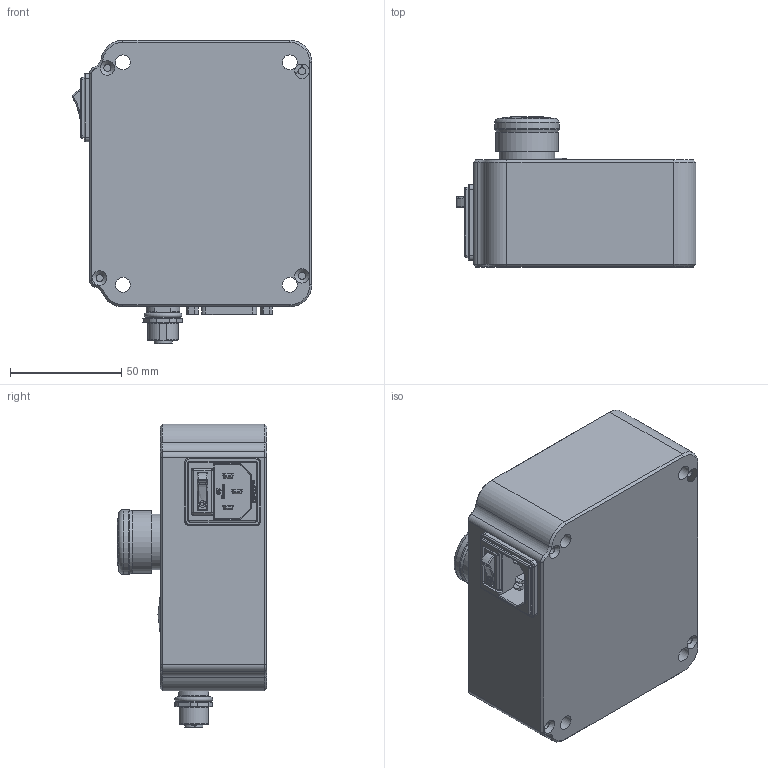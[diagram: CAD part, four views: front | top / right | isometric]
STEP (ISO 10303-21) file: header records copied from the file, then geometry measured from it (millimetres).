
FILE_DESCRIPTION(/* description */ (''),/* implementation_level */ '2;1');
FILE_NAME(/* name */ 'Power supply Meca500.stp',/* time_stamp */ '2024-07-18T07:40:30-04:00',/* author */ ('cbernier'),/* organization */ (''),/* preprocessor_version */ 'ST-DEVELOPER v20',/* originating_system */ 'Autodesk Inventor 2024',/* authorisation */ '');
FILE_SCHEMA (('AUTOMOTIVE_DESIGN { 1 0 10303 214 3 1 1 }'));
Products named in the file (1): Power supply Meca500_step
Bounding box: 107.89 x 67.4 x 136.6 mm (x, y, z)
Volume: 563371.7 mm3; surface area: 64067.3 mm2
Topology: 3 solids, 7 shells, 3347 faces, 8986 edges, 5923 vertices
Faces by surface type: plane 1877, bspline 1071, cylinder 264, cone 72, torus 52, sphere 11
Full cylindrical faces by diameter (mm): 1.008 x2, 1.1 x4, 1.143 x15, 1.596 x1, 1.8 x2, 2.156 x2, 2.845 x20, 3.002 x1, 3.048 x2, 3.175 x6, 3.5 x1, 5.6 x2, 6.655 x4, 8.2 x1, 10.917 x1, 11 x5, 12.2 x1, 13 x2, 25.1 x1, 25.25 x1, 28 x1, 29 x1, 43 x1
Entity records: 125143 total; most frequent: CARTESIAN_POINT 43443, ORIENTED_EDGE 17950, DIRECTION 12921, EDGE_CURVE 8975, LINE 5949, VECTOR 5949, VERTEX_POINT 5923, EDGE_LOOP 3686
